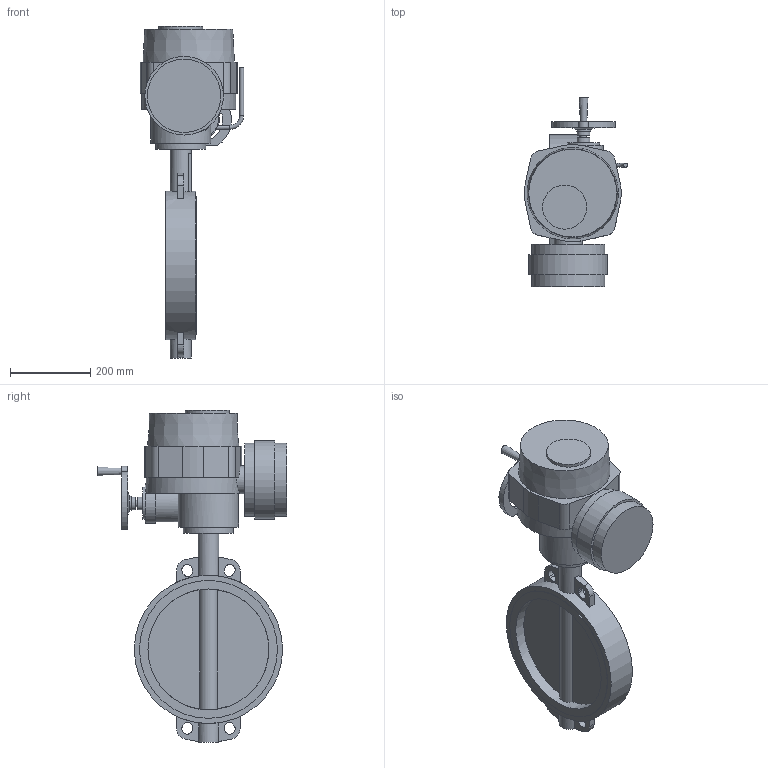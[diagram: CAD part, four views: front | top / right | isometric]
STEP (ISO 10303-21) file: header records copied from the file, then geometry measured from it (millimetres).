
FILE_DESCRIPTION(('STEP AP203'), '1');
FILE_NAME('Çàòâîð 017W.Z(ñòàëü) DN300+ÝÏ QT.A050', '', ('UNSPECIFIED'), ('UNSPECIFIED'), 'ASCON STEP Converter 1.6', 'ASCON Math Kernel', '');
FILE_SCHEMA(('CONFIG_CONTROL_DESIGN'));
Length unit declared in the file: millimetre
Bounding box: 257.68 x 472 x 828 mm (x, y, z)
Volume: 19438276 mm3; surface area: 904048 mm2
Topology: 1 solids, 1 shells, 890 faces, 2509 edges, 1668 vertices
Faces by surface type: cylinder 659, plane 227, cone 3, torus 1
Full cylindrical faces by diameter (mm): 6.7 x8, 10 x2, 12 x4, 16 x1, 32 x2, 35 x1, 52 x2, 70 x1, 80 x1, 100 x1, 110 x1, 125 x1, 150 x1, 183 x2, 196 x1, 301.6 x2, 344 x2, 370 x1
Entity records: 37786 total; most frequent: CARTESIAN_POINT 6403, DIRECTION 5580, ORIENTED_EDGE 4942, EDGE_CURVE 2471, AXIS2_PLACEMENT_3D 2245, VERTEX_POINT 1668, CIRCLE 1354, LINE 1090
